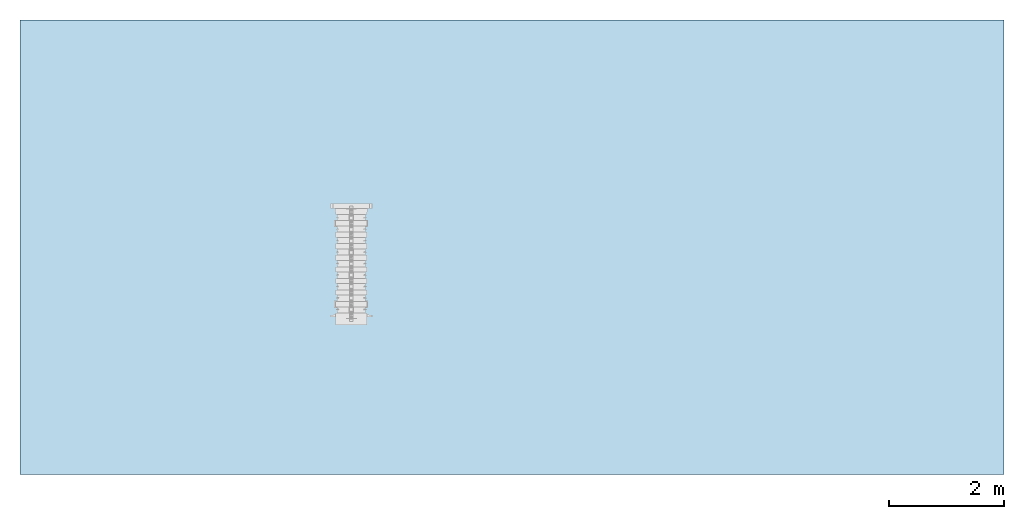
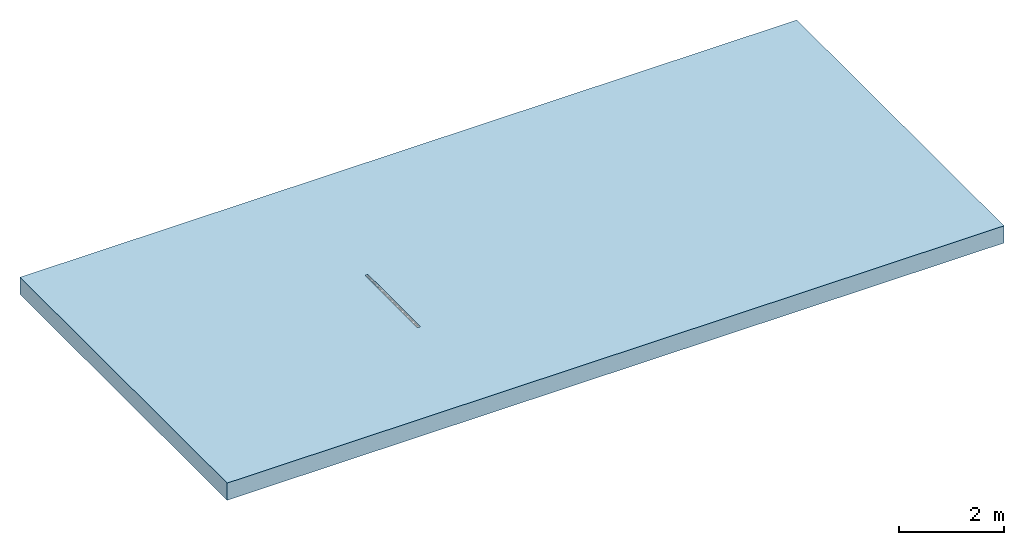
# One storey, incomplete: 1 slab, 1 opening.
"""IFC2X3 building model written with IfcOpenShell, lengths in millimetres."""

from ifc_helpers import new_model, entity, si_unit, converted_unit, direction, frame, frame_2d, origin, place, context, subcontext, project, spatial, polyline, rectangle, outline, extrude, material, layer, layer_set, layer_usage, element, save


model = new_model("IFC2X3")

# Units and contexts
model_context = context("Model", 3, precision=1e-06, world=origin(), true_north=direction((2.0, 6.12303176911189e-17, 1.0)))
context_of_model = context(None, 3, precision=1e-06, world=origin(), true_north=direction((2.0, 6.12303176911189e-17, 1.0)))
body_context = subcontext(model_context, "Body", "Model", "MODEL_VIEW")
ifc_project = project(units=[si_unit("LENGTHUNIT", "METRE", prefix="MILLI"), si_unit("AREAUNIT", "SQUARE_METRE", prefix="MILLI"), si_unit("VOLUMEUNIT", "CUBIC_METRE", prefix="MILLI"), converted_unit("PLANEANGLEUNIT", "DEGREE", entity("IfcRatioMeasure", 0.0174532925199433), si_unit("PLANEANGLEUNIT", "RADIAN"), dimensions=[0, 0, 0, 0, 0, 0, 0]), si_unit("TIMEUNIT", "SECOND")], contexts=[model_context, context_of_model])

# Site, building, storey
site_placement = place(None, origin())
site = spatial("IfcSite", under=ifc_project, at=site_placement, Name="Default", CompositionType="ELEMENT")
building_placement = place(site_placement, origin())
building = spatial("IfcBuilding", under=site, at=building_placement, CompositionType="ELEMENT")
storey_placement = place(building_placement, origin())
storey = spatial("IfcBuildingStorey", under=building, at=storey_placement, Name="Level 1", CompositionType="ELEMENT", Elevation=0.0)

# Slab, opening
ifc_material = material(Name="Plant")
ifc_layer = layer(ifc_material, 400.0)
ifc_layer_set = layer_set([ifc_layer], Name="Floor:Generic Floor - 400mm")
ifc_layer_usage = layer_usage(ifc_layer_set, "AXIS3", "POSITIVE", 0.0)
slab_placement = place(storey_placement, origin())
slab = element("IfcSlab", 1, at=slab_placement, inside=storey, material=ifc_layer_usage, Name="Floor:Generic Floor - 400mm", ObjectType="Floor:Generic Floor - 400mm", PredefinedType="FLOOR", context=body_context, shape_type="SweptSolid", body=[
    extrude(rectangle(XDim=7900.0, YDim=17100.0, at=frame_2d((0.0, 0.0), x_axis=(0.0, -1.0))), frame((-8097.86261836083, 1059.07636553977, 0.0), z_axis=(0.0, 0.0, -1.0), x_axis=(-1.0, 0.0, 0.0)), (0.0, 0.0, 1.0), 400.0),
])
opening_placement = place(slab_placement, origin())
element("IfcOpeningElement", 2, at=opening_placement, cuts=slab, ObjectType="Opening", context=body_context, shape_type="SweptSolid", body=[
    extrude(outline(polyline([(-292.500000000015, 32.5000000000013), (-292.500000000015, -32.4999999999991), (-242.499999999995, -32.4999999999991), (-242.499999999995, -392.499999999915), (777.500000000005, -392.499999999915), (777.500000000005, 392.499999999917), (-242.499999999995, 392.499999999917), (-242.499999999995, 32.5000000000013), (-292.500000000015, 32.5000000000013)])), frame((-10890.0939391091, -226.594513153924, -292.499999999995), z_axis=(0.0, -1.0, 0.0), x_axis=(0.0, 0.0, -1.0)), (0.0, 0.0, -1.0), 2000.0),
])

save(model, "model.ifc")
